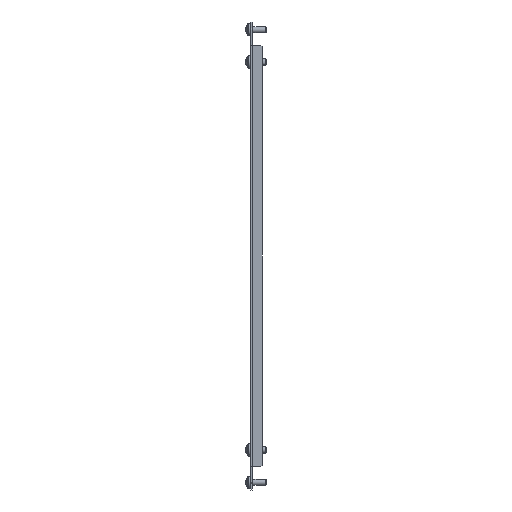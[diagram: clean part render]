
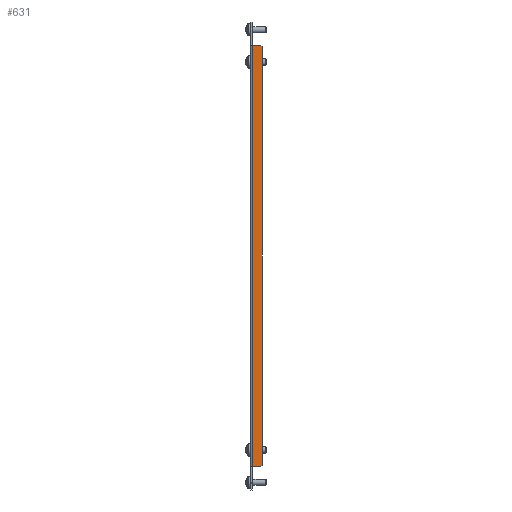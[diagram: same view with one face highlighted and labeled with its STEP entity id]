
A CAD part, left-side view. The second image highlights one B-rep face of the part: STEP entity #631.
In plain terms, the highlighted planar face has unit normal (-1, 0, 0) as drawn and (1, 0, 0) by its records, which use the part's own axes.
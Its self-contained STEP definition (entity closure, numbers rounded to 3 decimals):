
#2 = VECTOR ( 'NONE', #536, 1000. ) ;
#64 = LINE ( 'NONE', #564, #2 ) ;
#97 = ORIENTED_EDGE ( 'NONE', *, *, #2407, .F. ) ;
#186 = VERTEX_POINT ( 'NONE', #725 ) ;
#202 = EDGE_LOOP ( 'NONE', ( #982, #2770, #3126, #700, #1015, #97, #3147, #1954 ) ) ;
#232 = DIRECTION ( 'NONE',  ( 0., 0., 1. ) ) ;
#341 = EDGE_CURVE ( 'NONE', #2418, #1625, #551, .T. ) ;
#355 = CARTESIAN_POINT ( 'NONE',  ( 434., -163., 0. ) ) ;
#397 = CARTESIAN_POINT ( 'NONE',  ( 434., 163., 0. ) ) ;
#413 = LINE ( 'NONE', #854, #3309 ) ;
#477 = VECTOR ( 'NONE', #3175, 1000. ) ;
#519 = AXIS2_PLACEMENT_3D ( 'NONE', #2058, #3056, #742 ) ;
#536 = DIRECTION ( 'NONE',  ( 0., 0.707, 0.707 ) ) ;
#551 = LINE ( 'NONE', #355, #997 ) ;
#564 = CARTESIAN_POINT ( 'NONE',  ( 434., 163., -8. ) ) ;
#631 = ADVANCED_FACE ( 'NONE', ( #2009 ), #3025, .F. ) ;
#700 = ORIENTED_EDGE ( 'NONE', *, *, #3230, .T. ) ;
#725 = CARTESIAN_POINT ( 'NONE',  ( 434., 163., -2.1 ) ) ;
#742 = DIRECTION ( 'NONE',  ( 0., 0., 1. ) ) ;
#782 = CARTESIAN_POINT ( 'NONE',  ( 434., -162., -9. ) ) ;
#854 = CARTESIAN_POINT ( 'NONE',  ( 434., -162., -9. ) ) ;
#877 = EDGE_CURVE ( 'NONE', #1625, #1255, #413, .T. ) ;
#910 = CARTESIAN_POINT ( 'NONE',  ( 434., 163., -8. ) ) ;
#982 = ORIENTED_EDGE ( 'NONE', *, *, #1773, .T. ) ;
#997 = VECTOR ( 'NONE', #1107, 1000. ) ;
#1015 = ORIENTED_EDGE ( 'NONE', *, *, #1222, .T. ) ;
#1107 = DIRECTION ( 'NONE',  ( 0., 0., -1. ) ) ;
#1157 = DIRECTION ( 'NONE',  ( 0., 0.707, -0.707 ) ) ;
#1222 = EDGE_CURVE ( 'NONE', #1851, #2811, #3100, .T. ) ;
#1255 = VERTEX_POINT ( 'NONE', #782 ) ;
#1399 = EDGE_CURVE ( 'NONE', #1451, #3251, #64, .T. ) ;
#1451 = VERTEX_POINT ( 'NONE', #2860 ) ;
#1453 = CARTESIAN_POINT ( 'NONE',  ( 434., 163., -2.1 ) ) ;
#1455 = CARTESIAN_POINT ( 'NONE',  ( 434., -163., -8. ) ) ;
#1569 = DIRECTION ( 'NONE',  ( 0., 0., 1. ) ) ;
#1625 = VERTEX_POINT ( 'NONE', #1455 ) ;
#1755 = CARTESIAN_POINT ( 'NONE',  ( 434., 163., 0. ) ) ;
#1773 = EDGE_CURVE ( 'NONE', #1255, #1451, #2186, .T. ) ;
#1851 = VERTEX_POINT ( 'NONE', #397 ) ;
#1946 = VECTOR ( 'NONE', #1569, 1000. ) ;
#1954 = ORIENTED_EDGE ( 'NONE', *, *, #877, .T. ) ;
#1987 = VECTOR ( 'NONE', #232, 1000. ) ;
#1991 = CARTESIAN_POINT ( 'NONE',  ( 434., -163., 0. ) ) ;
#2009 = FACE_OUTER_BOUND ( 'NONE', #202, .T. ) ;
#2058 = CARTESIAN_POINT ( 'NONE',  ( 434., 0., 0. ) ) ;
#2086 = DIRECTION ( 'NONE',  ( 0., -1., 0. ) ) ;
#2098 = LINE ( 'NONE', #2622, #1946 ) ;
#2160 = CARTESIAN_POINT ( 'NONE',  ( 434., 0., -9. ) ) ;
#2186 = LINE ( 'NONE', #2160, #477 ) ;
#2204 = VECTOR ( 'NONE', #2086, 1000. ) ;
#2272 = EDGE_CURVE ( 'NONE', #3251, #186, #2293, .T. ) ;
#2293 = LINE ( 'NONE', #1755, #2794 ) ;
#2372 = CARTESIAN_POINT ( 'NONE',  ( 434., 0., 0. ) ) ;
#2407 = EDGE_CURVE ( 'NONE', #2418, #2811, #2098, .T. ) ;
#2418 = VERTEX_POINT ( 'NONE', #2876 ) ;
#2622 = CARTESIAN_POINT ( 'NONE',  ( 434., -163., 0. ) ) ;
#2770 = ORIENTED_EDGE ( 'NONE', *, *, #1399, .T. ) ;
#2794 = VECTOR ( 'NONE', #3307, 1000. ) ;
#2811 = VERTEX_POINT ( 'NONE', #1991 ) ;
#2860 = CARTESIAN_POINT ( 'NONE',  ( 434., 162., -9. ) ) ;
#2876 = CARTESIAN_POINT ( 'NONE',  ( 434., -163., -2.1 ) ) ;
#3025 = PLANE ( 'NONE',  #519 ) ;
#3056 = DIRECTION ( 'NONE',  ( -1., 0., 0. ) ) ;
#3100 = LINE ( 'NONE', #2372, #2204 ) ;
#3126 = ORIENTED_EDGE ( 'NONE', *, *, #2272, .T. ) ;
#3147 = ORIENTED_EDGE ( 'NONE', *, *, #341, .T. ) ;
#3175 = DIRECTION ( 'NONE',  ( 0., 1., 0. ) ) ;
#3224 = LINE ( 'NONE', #1453, #1987 ) ;
#3230 = EDGE_CURVE ( 'NONE', #186, #1851, #3224, .T. ) ;
#3251 = VERTEX_POINT ( 'NONE', #910 ) ;
#3307 = DIRECTION ( 'NONE',  ( 0., 0., 1. ) ) ;
#3309 = VECTOR ( 'NONE', #1157, 1000. ) ;
